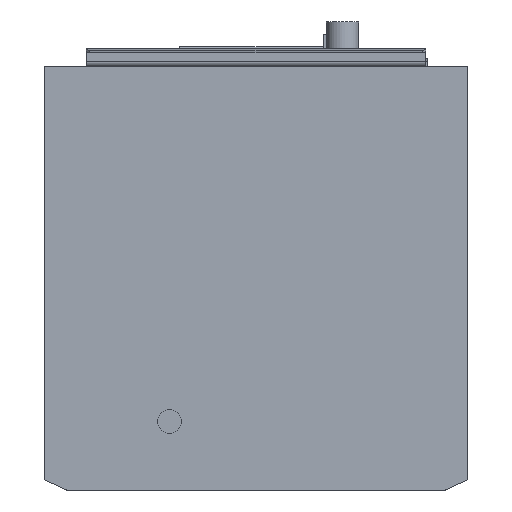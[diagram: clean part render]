
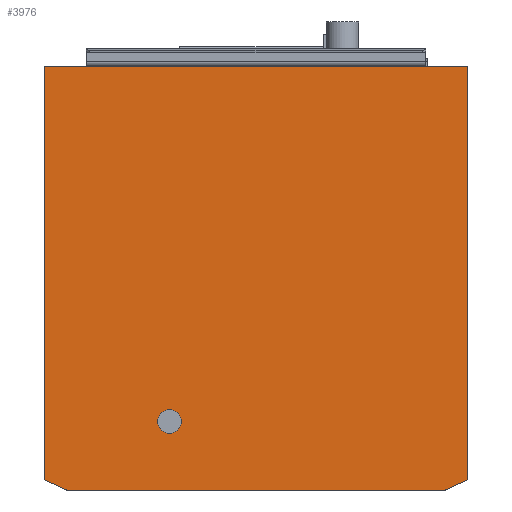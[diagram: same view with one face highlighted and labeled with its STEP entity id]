
A CAD part, front view. The second image highlights one B-rep face of the part: STEP entity #3976.
In plain terms, the highlighted planar face has unit normal (0, -1, 0).
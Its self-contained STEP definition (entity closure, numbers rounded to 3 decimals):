
#2217=DIRECTION('',(-0.906,0.,-0.423));
#2218=VECTOR('',#2217,12.626);
#2219=CARTESIAN_POINT('',(123.845,0.,-244.476));
#2220=LINE('',#2219,#2218);
#2224=CARTESIAN_POINT('',(111.557,0.,-248.));
#2225=DIRECTION('',(0.,1.,0.));
#2226=DIRECTION('',(0.423,0.,-0.906));
#2227=AXIS2_PLACEMENT_3D('',#2224,#2225,#2226);
#2232=DIRECTION('',(-1.,0.,0.));
#2233=VECTOR('',#2232,223.113);
#2234=CARTESIAN_POINT('',(111.557,0.,-250.));
#2235=LINE('',#2234,#2233);
#2239=CARTESIAN_POINT('',(-111.557,0.,-248.));
#2240=DIRECTION('',(0.,1.,0.));
#2241=DIRECTION('',(0.,0.,-1.));
#2242=AXIS2_PLACEMENT_3D('',#2239,#2240,#2241);
#2247=DIRECTION('',(-0.906,0.,0.423));
#2248=VECTOR('',#2247,12.626);
#2249=CARTESIAN_POINT('',(-112.402,0.,-249.813));
#2250=LINE('',#2249,#2248);
#2254=CARTESIAN_POINT('',(-123.,0.,-242.664));
#2255=DIRECTION('',(0.,1.,0.));
#2256=DIRECTION('',(-0.423,0.,-0.906));
#2257=AXIS2_PLACEMENT_3D('',#2254,#2255,#2256);
#2262=DIRECTION('',(0.,0.,1.));
#2263=VECTOR('',#2262,240.664);
#2264=CARTESIAN_POINT('',(-125.,0.,-242.664));
#2265=LINE('',#2264,#2263);
#2269=DIRECTION('',(0.,0.,1.));
#2270=VECTOR('',#2269,2.);
#2271=CARTESIAN_POINT('',(-125.,0.,-2.));
#2272=LINE('',#2271,#2270);
#2276=DIRECTION('',(1.,0.,0.));
#2277=VECTOR('',#2276,250.);
#2278=CARTESIAN_POINT('',(-125.,0.,0.));
#2279=LINE('',#2278,#2277);
#2283=DIRECTION('',(0.,0.,-1.));
#2284=VECTOR('',#2283,2.);
#2285=CARTESIAN_POINT('',(125.,0.,0.));
#2286=LINE('',#2285,#2284);
#2290=DIRECTION('',(0.,0.,-1.));
#2291=VECTOR('',#2290,240.664);
#2292=CARTESIAN_POINT('',(125.,0.,-2.));
#2293=LINE('',#2292,#2291);
#2297=CARTESIAN_POINT('',(123.,0.,-242.664));
#2298=DIRECTION('',(0.,1.,0.));
#2299=DIRECTION('',(1.,0.,0.));
#2300=AXIS2_PLACEMENT_3D('',#2297,#2298,#2299);
#2305=CARTESIAN_POINT('',(-51.,0.,-209.5));
#2306=DIRECTION('',(0.,-1.,0.));
#2307=DIRECTION('',(1.,0.,0.));
#2308=AXIS2_PLACEMENT_3D('',#2305,#2306,#2307);
#2313=CARTESIAN_POINT('',(-51.,0.,-209.5));
#2314=DIRECTION('',(0.,-1.,0.));
#2315=DIRECTION('',(-1.,0.,0.));
#2316=AXIS2_PLACEMENT_3D('',#2313,#2314,#2315);
#3691=CARTESIAN_POINT('',(123.845,0.,-244.476));
#3692=CARTESIAN_POINT('',(112.402,0.,-249.813));
#3693=VERTEX_POINT('',#3691);
#3694=VERTEX_POINT('',#3692);
#3695=CARTESIAN_POINT('',(111.557,0.,-250.));
#3696=VERTEX_POINT('',#3695);
#3697=CARTESIAN_POINT('',(-111.557,0.,-250.));
#3698=VERTEX_POINT('',#3697);
#3699=CARTESIAN_POINT('',(-112.402,0.,-249.813));
#3700=VERTEX_POINT('',#3699);
#3701=CARTESIAN_POINT('',(-123.845,0.,-244.476));
#3702=VERTEX_POINT('',#3701);
#3703=CARTESIAN_POINT('',(-125.,0.,-242.664));
#3704=VERTEX_POINT('',#3703);
#3705=CARTESIAN_POINT('',(-125.,0.,-2.));
#3706=VERTEX_POINT('',#3705);
#3707=CARTESIAN_POINT('',(-125.,0.,0.));
#3708=VERTEX_POINT('',#3707);
#3709=CARTESIAN_POINT('',(125.,0.,0.));
#3710=VERTEX_POINT('',#3709);
#3711=CARTESIAN_POINT('',(125.,0.,-2.));
#3712=VERTEX_POINT('',#3711);
#3713=CARTESIAN_POINT('',(125.,0.,-242.664));
#3714=VERTEX_POINT('',#3713);
#3715=CARTESIAN_POINT('',(-44.,0.,-209.5));
#3716=CARTESIAN_POINT('',(-58.,0.,-209.5));
#3717=VERTEX_POINT('',#3715);
#3718=VERTEX_POINT('',#3716);
#3939=CARTESIAN_POINT('',(0.,0.,-1.5));
#3940=DIRECTION('',(0.,-1.,0.));
#3941=DIRECTION('',(0.,0.,-1.));
#3942=AXIS2_PLACEMENT_3D('',#3939,#3940,#3941);
#3943=PLANE('',#3942);
#3945=ORIENTED_EDGE('',*,*,#3944,.T.);
#3947=ORIENTED_EDGE('',*,*,#3946,.T.);
#3949=ORIENTED_EDGE('',*,*,#3948,.T.);
#3951=ORIENTED_EDGE('',*,*,#3950,.T.);
#3953=ORIENTED_EDGE('',*,*,#3952,.T.);
#3955=ORIENTED_EDGE('',*,*,#3954,.T.);
#3957=ORIENTED_EDGE('',*,*,#3956,.T.);
#3959=ORIENTED_EDGE('',*,*,#3958,.T.);
#3961=ORIENTED_EDGE('',*,*,#3960,.T.);
#3963=ORIENTED_EDGE('',*,*,#3962,.T.);
#3965=ORIENTED_EDGE('',*,*,#3964,.T.);
#3967=ORIENTED_EDGE('',*,*,#3966,.T.);
#3968=EDGE_LOOP('',(#3945,#3947,#3949,#3951,#3953,#3955,#3957,#3959,#3961,#3963,
#3965,#3967));
#3969=FACE_OUTER_BOUND('',#3968,.F.);
#3971=ORIENTED_EDGE('',*,*,#3970,.T.);
#3973=ORIENTED_EDGE('',*,*,#3972,.T.);
#3974=EDGE_LOOP('',(#3971,#3973));
#3975=FACE_BOUND('',#3974,.F.);
#3976=ADVANCED_FACE('',(#3969,#3975),#3943,.T.);
#2228=CIRCLE('',#2227,2.);
#2243=CIRCLE('',#2242,2.);
#2258=CIRCLE('',#2257,2.);
#2301=CIRCLE('',#2300,2.);
#2309=CIRCLE('',#2308,7.);
#2317=CIRCLE('',#2316,7.);
#3944=EDGE_CURVE('',#3693,#3694,#2220,.T.);
#3946=EDGE_CURVE('',#3694,#3696,#2228,.T.);
#3948=EDGE_CURVE('',#3696,#3698,#2235,.T.);
#3950=EDGE_CURVE('',#3698,#3700,#2243,.T.);
#3952=EDGE_CURVE('',#3700,#3702,#2250,.T.);
#3954=EDGE_CURVE('',#3702,#3704,#2258,.T.);
#3956=EDGE_CURVE('',#3704,#3706,#2265,.T.);
#3958=EDGE_CURVE('',#3706,#3708,#2272,.T.);
#3960=EDGE_CURVE('',#3708,#3710,#2279,.T.);
#3962=EDGE_CURVE('',#3710,#3712,#2286,.T.);
#3964=EDGE_CURVE('',#3712,#3714,#2293,.T.);
#3966=EDGE_CURVE('',#3714,#3693,#2301,.T.);
#3970=EDGE_CURVE('',#3717,#3718,#2309,.T.);
#3972=EDGE_CURVE('',#3718,#3717,#2317,.T.);
